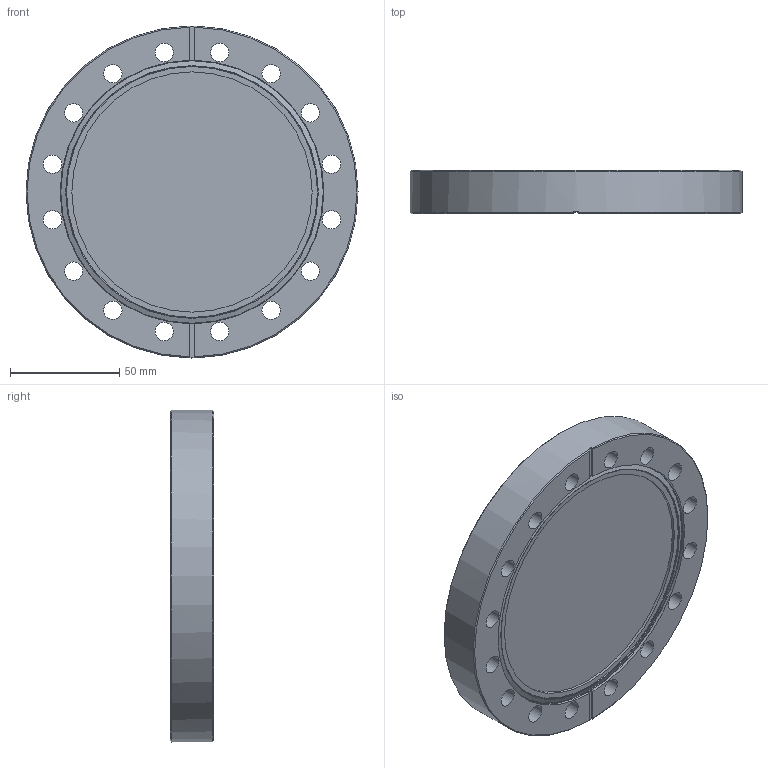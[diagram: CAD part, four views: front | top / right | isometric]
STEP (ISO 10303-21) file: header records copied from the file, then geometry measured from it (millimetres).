
FILE_DESCRIPTION(/* description */ (''),/* implementation_level */ '2;1');
FILE_NAME(/* name */ '',/* time_stamp */ '2024-03-04T17:30:31+09:00',/* author */ (''),/* organization */ (''),/* preprocessor_version */ 'ST-DEVELOPER v20',/* originating_system */ 'Autodesk Translation Framework v12.20.1.177',/* authorisation */ '');
FILE_SCHEMA (('AUTOMOTIVE_DESIGN { 1 0 10303 214 3 1 1 }'));
Length unit declared in the file: millimetre
Products named in the file (2): 2107-4142 ICF152(t19.8)ブランク(BeCu)溝あり; ICF152-114
Assembly tree (1 placements, depth 2):
  2107-4142 ICF152(t19.8)ブランク(BeCu)溝あり
    ICF152-114
Bounding box: 152 x 19.8 x 152 mm (x, y, z)
Volume: 315526.6 mm3; surface area: 53287.1 mm2
Topology: 1 solids, 1 shells, 38 faces, 103 edges, 68 vertices
Faces by surface type: cylinder 20, plane 11, cone 4, torus 3
Full cylindrical faces by diameter (mm): 8.4 x16, 110 x1, 115.3 x1, 120.7 x1, 152 x1
Entity records: 1381 total; most frequent: DIRECTION 248, CARTESIAN_POINT 213, ORIENTED_EDGE 206, EDGE_CURVE 103, AXIS2_PLACEMENT_3D 103, EDGE_LOOP 71, VERTEX_POINT 68, CIRCLE 61
